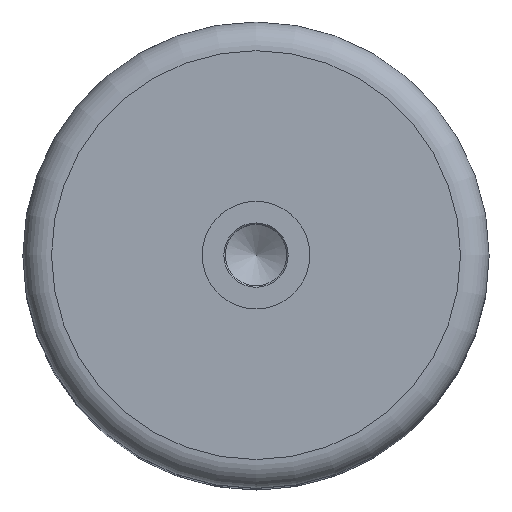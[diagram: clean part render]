
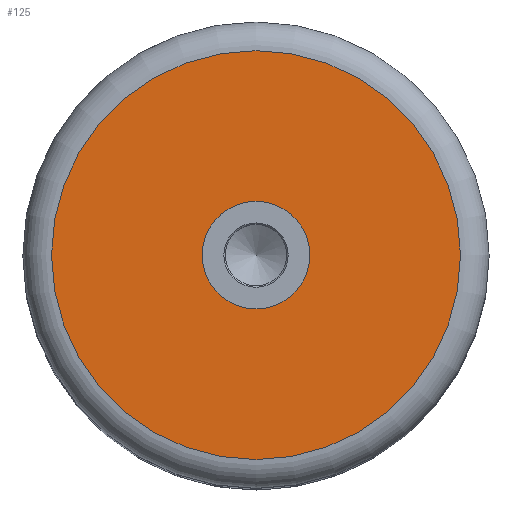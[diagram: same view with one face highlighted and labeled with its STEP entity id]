
A CAD part, top view. The second image highlights one B-rep face of the part: STEP entity #125.
In plain terms, the highlighted planar face has unit normal (0, 0, 1).
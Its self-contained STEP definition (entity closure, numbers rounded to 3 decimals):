
#125=ADVANCED_FACE('',(#219,#220),#221,.T.);
#219=FACE_BOUND('',#304,.T.);
#220=FACE_OUTER_BOUND('',#305,.T.);
#221=PLANE('',#306);
#304=EDGE_LOOP('',(#409));
#305=EDGE_LOOP('',(#410));
#306=AXIS2_PLACEMENT_3D('',#411,#412,#413);
#409=ORIENTED_EDGE('',*,*,#472,.F.);
#410=ORIENTED_EDGE('',*,*,#469,.T.);
#411=CARTESIAN_POINT('',(0.0,0.0,70.0));
#412=DIRECTION('',(0.0,0.0,1.0));
#413=DIRECTION('',(1.0,0.0,0.0));
#469=EDGE_CURVE('',#521,#521,#522,.T.);
#472=EDGE_CURVE('',#526,#526,#527,.T.);
#521=VERTEX_POINT('',#789);
#522=CIRCLE('',#790,28.5);
#526=VERTEX_POINT('',#794);
#527=CIRCLE('',#795,7.5);
#789=CARTESIAN_POINT('',(28.5,0.0,70.0));
#790=AXIS2_PLACEMENT_3D('',#844,#845,#846);
#794=CARTESIAN_POINT('',(7.5,0.0,70.0));
#795=AXIS2_PLACEMENT_3D('',#850,#851,#852);
#844=CARTESIAN_POINT('',(0.0,0.0,70.0));
#845=DIRECTION('',(0.0,0.0,1.0));
#846=DIRECTION('',(1.0,0.0,0.0));
#850=CARTESIAN_POINT('',(0.0,0.0,70.0));
#851=DIRECTION('',(0.0,0.0,1.0));
#852=DIRECTION('',(1.0,0.0,0.0));
